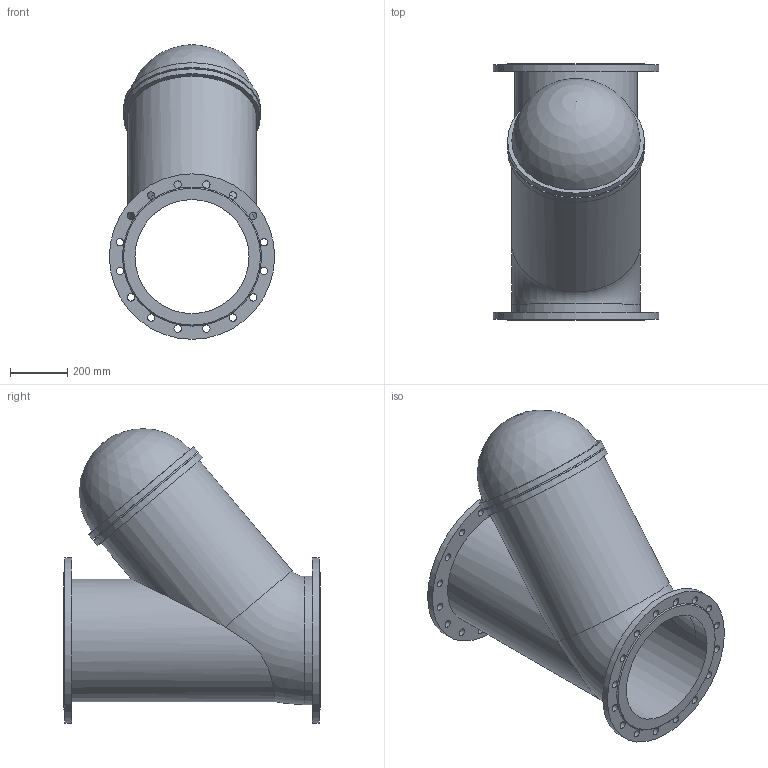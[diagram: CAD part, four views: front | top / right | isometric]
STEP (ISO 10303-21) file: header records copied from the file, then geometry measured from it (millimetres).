
FILE_DESCRIPTION(('STEP AP203'), '1');
FILE_NAME('Êëàïàí îáðàòíûé øàðîâîé ôëàíöåâûé 012F DN400', '', ('UNSPECIFIED'), ('UNSPECIFIED'), 'ASCON STEP Converter 1.6', 'ASCON Math Kernel', '');
FILE_SCHEMA(('CONFIG_CONTROL_DESIGN'));
Length unit declared in the file: millimetre
Bounding box: 580 x 900 x 1033.1 mm (x, y, z)
Volume: 68555577.3 mm3; surface area: 4332436.6 mm2
Topology: 1 solids, 1 shells, 60 faces, 153 edges, 102 vertices
Faces by surface type: cylinder 43, plane 12, torus 2, cone 2, sphere 1
Full cylindrical faces by diameter (mm): 26 x32, 400 x2, 430 x1, 450 x2, 460 x1, 480 x2, 580 x2
Entity records: 2664 total; most frequent: CARTESIAN_POINT 680, DIRECTION 312, ORIENTED_EDGE 210, EDGE_LOOP 180, AXIS2_PLACEMENT_3D 156, EDGE_CURVE 105, VERTEX_POINT 101, CIRCLE 95
